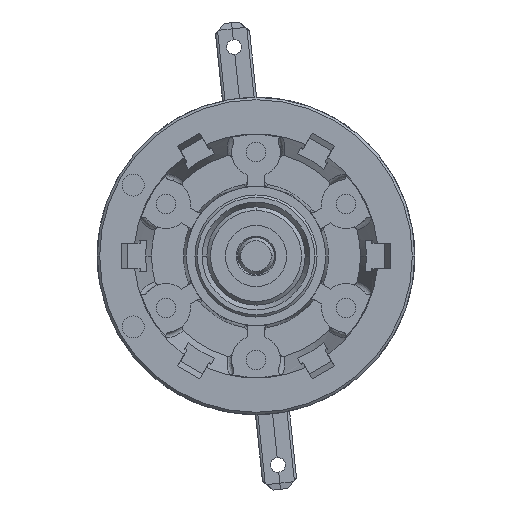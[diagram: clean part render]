
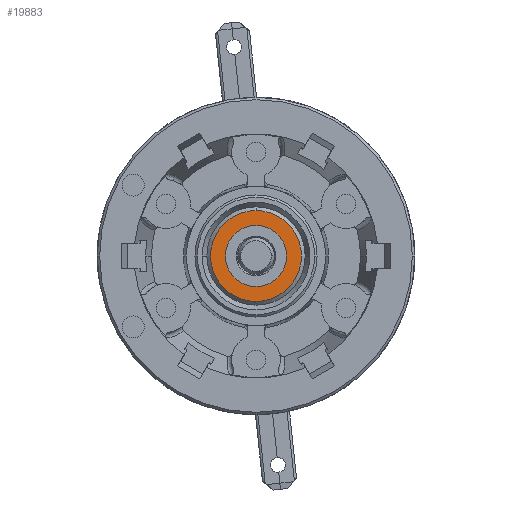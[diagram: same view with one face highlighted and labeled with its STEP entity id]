
A CAD part, left-side view. The second image highlights one B-rep face of the part: STEP entity #19883.
In plain terms, the highlighted planar face has unit normal (-1, 0, 0).
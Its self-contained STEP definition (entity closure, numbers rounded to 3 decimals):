
#9276=CARTESIAN_POINT('',(-1.89,0.,0.));
#9277=DIRECTION('',(-1.,0.,0.));
#9278=DIRECTION('',(0.,0.,1.));
#9279=AXIS2_PLACEMENT_3D('',#9276,#9277,#9278);
#9284=CARTESIAN_POINT('',(-1.89,0.,0.));
#9285=DIRECTION('',(-1.,0.,0.));
#9286=DIRECTION('',(0.,0.,-1.));
#9287=AXIS2_PLACEMENT_3D('',#9284,#9285,#9286);
#9292=CARTESIAN_POINT('',(-1.89,0.,0.));
#9293=DIRECTION('',(-1.,0.,0.));
#9294=DIRECTION('',(0.,0.,1.));
#9295=AXIS2_PLACEMENT_3D('',#9292,#9293,#9294);
#9300=CARTESIAN_POINT('',(-1.89,0.,0.));
#9301=DIRECTION('',(-1.,0.,0.));
#9302=DIRECTION('',(0.,0.,-1.));
#9303=AXIS2_PLACEMENT_3D('',#9300,#9301,#9302);
#10531=CARTESIAN_POINT('',(-1.89,0.,3.725));
#10532=CARTESIAN_POINT('',(-1.89,0.,-3.725));
#10533=VERTEX_POINT('',#10531);
#10534=VERTEX_POINT('',#10532);
#10539=CARTESIAN_POINT('',(-1.89,0.,2.));
#10540=CARTESIAN_POINT('',(-1.89,0.,-2.));
#10541=VERTEX_POINT('',#10539);
#10542=VERTEX_POINT('',#10540);
#19867=CARTESIAN_POINT('',(-1.89,0.,0.));
#19868=DIRECTION('',(1.,0.,0.));
#19869=DIRECTION('',(0.,0.,1.));
#19870=AXIS2_PLACEMENT_3D('',#19867,#19868,#19869);
#19871=PLANE('',#19870);
#19873=ORIENTED_EDGE('',*,*,#19872,.F.);
#19874=ORIENTED_EDGE('',*,*,#19857,.F.);
#19875=EDGE_LOOP('',(#19873,#19874));
#19876=FACE_OUTER_BOUND('',#19875,.F.);
#19878=ORIENTED_EDGE('',*,*,#19877,.T.);
#19880=ORIENTED_EDGE('',*,*,#19879,.T.);
#19881=EDGE_LOOP('',(#19878,#19880));
#19882=FACE_BOUND('',#19881,.F.);
#19883=ADVANCED_FACE('',(#19876,#19882),#19871,.F.);
#9280=CIRCLE('',#9279,3.725);
#9288=CIRCLE('',#9287,3.725);
#9296=CIRCLE('',#9295,2.);
#9304=CIRCLE('',#9303,2.);
#19857=EDGE_CURVE('',#10534,#10533,#9288,.T.);
#19872=EDGE_CURVE('',#10533,#10534,#9280,.T.);
#19877=EDGE_CURVE('',#10541,#10542,#9296,.T.);
#19879=EDGE_CURVE('',#10542,#10541,#9304,.T.);
